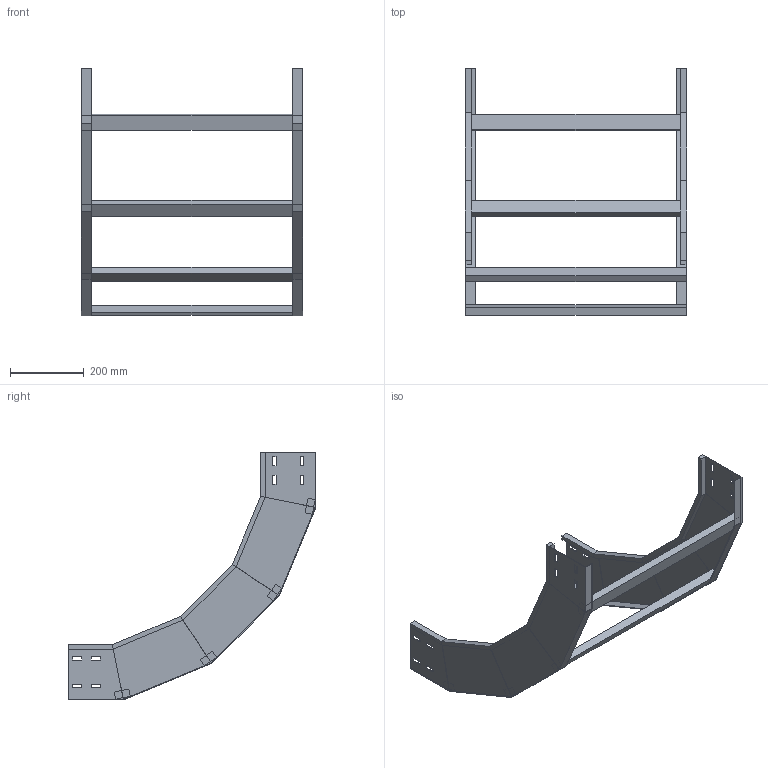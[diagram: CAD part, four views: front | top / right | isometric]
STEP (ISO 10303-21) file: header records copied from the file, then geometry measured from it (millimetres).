
FILE_DESCRIPTION (( 'STEP AP214' ), '1' );
FILE_NAME ('30J5F600.step', '2025-02-21T16:27:30', ( '' ), ( '' ), 'SwSTEP 2.0', 'SolidWorks 2023', '' );
FILE_SCHEMA (( 'AUTOMOTIVE_DESIGN' ));
Length unit declared in the file: millimetre
Products named in the file (3): 30J5F600; LONGH.SALITA_90°_H150_R500; TRAVERSINO_600
Assembly tree (6 placements, depth 2):
  30J5F600
    LONGH.SALITA_90°_H150_R500  x2
    TRAVERSINO_600  x4
Bounding box: 600 x 671.54 x 671.54 mm (x, y, z)
Volume: 2931548 mm3; surface area: 1036144.2 mm2
Topology: 6 solids, 6 shells, 172 faces, 416 edges, 256 vertices
Faces by surface type: plane 172
Entity records: 2416 total; most frequent: CARTESIAN_POINT 405, ORIENTED_EDGE 392, DIRECTION 374, EDGE_CURVE 196, VECTOR 196, LINE 196, VERTEX_POINT 120, EDGE_LOOP 96
